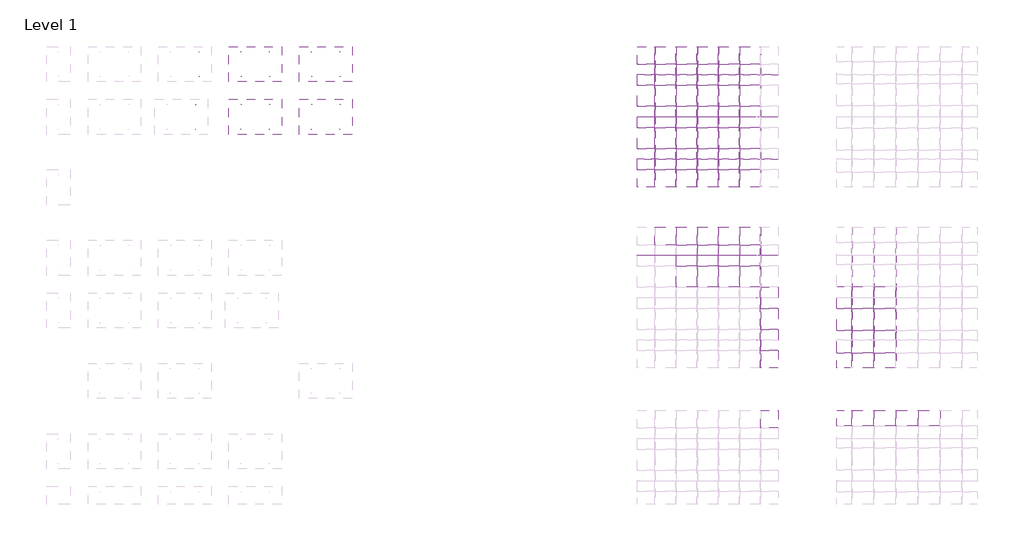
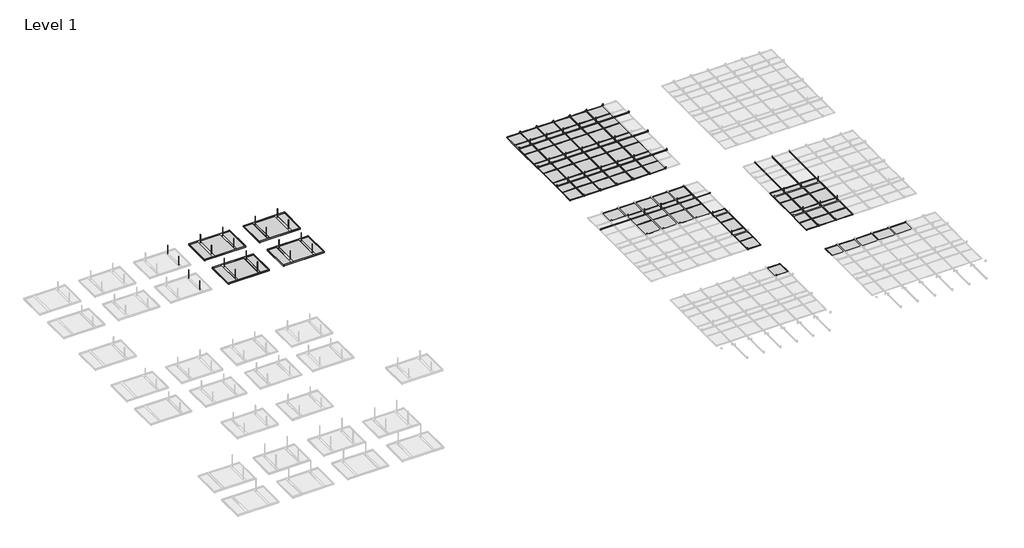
# One storey, part 22 of 32: 141 proxies.
"""IFC4 building model written with IfcOpenShell, lengths in millimetres."""

from ifc_helpers import new_model, si_unit, origin, place, context, project, spatial, transform, mapped, element, save
from components import generic_models_84546a59, generic_models_ee162b96, generic_models_38625c8c, generic_models_cebb11cf, generic_models_39815823, generic_models_aa8f36d8, generic_models_26324e2b, generic_models_eb6e0cd6, generic_models_ee13603d, generic_models_0cb75665, generic_models_6d21b951, generic_models_de900850, generic_models_85b4ffa8

model = new_model("IFC4")

# Units and contexts
model_context = context("Model", 3, world=origin())
ifc_project = project(units=[si_unit("LENGTHUNIT", "METRE", prefix="MILLI")], contexts=[model_context])

# Site, building, storey
site = spatial("IfcSite", under=ifc_project)
building = spatial("IfcBuilding", under=site)
storey = spatial("IfcBuildingStorey", under=building, Name="Level 1", Elevation=0.0)

# Proxies
placement = place(None, origin())
generic_models_shape = generic_models_84546a59(model_context)
element("IfcBuildingElementProxy", 1, Name="durlum_threaded_rod_M6 : durlum_threaded_rod_M6", ObjectType="durlum_threaded_rod_M6 : durlum_threaded_rod_M6", at=placement, inside=storey, context=model_context, shape_type="MappedRepresentation", body=[
    mapped(generic_models_shape, transform((-17784.1736977, 26058.7392516, 3835.0), x_axis=(1.0, 0.0, 0.0), y_axis=(0.0, 1.0, 0.0), z_axis=(0.0, 0.0, 1.0))),
])
element("IfcBuildingElementProxy", 2, Name="durlum_threaded_rod_M6 : durlum_threaded_rod_M6", ObjectType="durlum_threaded_rod_M6 : durlum_threaded_rod_M6", at=placement, inside=storey, context=model_context, shape_type="MappedRepresentation", body=[
    mapped(generic_models_shape, transform((-17784.1736977, 23658.7392516, 3835.0), x_axis=(1.0, 0.0, 0.0), y_axis=(0.0, 1.0, 0.0), z_axis=(0.0, 0.0, 1.0))),
])
element("IfcBuildingElementProxy", 3, Name="durlum_threaded_rod_M6 : durlum_threaded_rod_M6", ObjectType="durlum_threaded_rod_M6 : durlum_threaded_rod_M6", at=placement, inside=storey, context=model_context, shape_type="MappedRepresentation", body=[
    mapped(generic_models_shape, transform((-18984.1736977, 23658.7392516, 3835.0), x_axis=(1.0, 0.0, 0.0), y_axis=(0.0, 1.0, 0.0), z_axis=(0.0, 0.0, 1.0))),
])
element("IfcBuildingElementProxy", 4, Name="durlum_threaded_rod_M6 : durlum_threaded_rod_M6", ObjectType="durlum_threaded_rod_M6 : durlum_threaded_rod_M6", at=placement, inside=storey, context=model_context, shape_type="MappedRepresentation", body=[
    mapped(generic_models_shape, transform((-16584.1736977, 23658.7392516, 3835.0), x_axis=(1.0, 0.0, 0.0), y_axis=(0.0, 1.0, 0.0), z_axis=(0.0, 0.0, 1.0))),
])
element("IfcBuildingElementProxy", 5, Name="durlum_threaded_rod_M6 : durlum_threaded_rod_M6", ObjectType="durlum_threaded_rod_M6 : durlum_threaded_rod_M6", at=placement, inside=storey, context=model_context, shape_type="MappedRepresentation", body=[
    mapped(generic_models_shape, transform((-17184.1736977, 23658.7392516, 3835.0), x_axis=(1.0, 0.0, 0.0), y_axis=(0.0, 1.0, 0.0), z_axis=(0.0, 0.0, 1.0))),
])
element("IfcBuildingElementProxy", 6, Name="durlum_threaded_rod_M6 : durlum_threaded_rod_M6", ObjectType="durlum_threaded_rod_M6 : durlum_threaded_rod_M6", at=placement, inside=storey, context=model_context, shape_type="MappedRepresentation", body=[
    mapped(generic_models_shape, transform((-18984.1736977, 26058.7392516, 3835.0), x_axis=(1.0, 0.0, 0.0), y_axis=(0.0, 1.0, 0.0), z_axis=(0.0, 0.0, 1.0))),
])
element("IfcBuildingElementProxy", 7, Name="durlum_threaded_rod_M6 : durlum_threaded_rod_M6", ObjectType="durlum_threaded_rod_M6 : durlum_threaded_rod_M6", at=placement, inside=storey, context=model_context, shape_type="MappedRepresentation", body=[
    mapped(generic_models_shape, transform((-16584.1736977, 26058.7392516, 3835.0), x_axis=(1.0, 0.0, 0.0), y_axis=(0.0, 1.0, 0.0), z_axis=(0.0, 0.0, 1.0))),
])
element("IfcBuildingElementProxy", 8, Name="durlum_threaded_rod_M6 : durlum_threaded_rod_M6", ObjectType="durlum_threaded_rod_M6 : durlum_threaded_rod_M6", at=placement, inside=storey, context=model_context, shape_type="MappedRepresentation", body=[
    mapped(generic_models_shape, transform((-17184.1736977, 26058.7392516, 3835.0), x_axis=(1.0, 0.0, 0.0), y_axis=(0.0, 1.0, 0.0), z_axis=(0.0, 0.0, 1.0))),
])
element("IfcBuildingElementProxy", 9, Name="durlum_threaded_rod_M6 : durlum_threaded_rod_M6", ObjectType="durlum_threaded_rod_M6 : durlum_threaded_rod_M6", at=placement, inside=storey, context=model_context, shape_type="MappedRepresentation", body=[
    mapped(generic_models_shape, transform((-18384.1736977, 26058.7392516, 3835.0), x_axis=(1.0, 0.0, 0.0), y_axis=(0.0, 1.0, 0.0), z_axis=(0.0, 0.0, 1.0))),
])
element("IfcBuildingElementProxy", 10, Name="durlum_threaded_rod_M6 : durlum_threaded_rod_M6", ObjectType="durlum_threaded_rod_M6 : durlum_threaded_rod_M6", at=placement, inside=storey, context=model_context, shape_type="MappedRepresentation", body=[
    mapped(generic_models_shape, transform((-18384.1736977, 23658.7392516, 3835.0), x_axis=(1.0, 0.0, 0.0), y_axis=(0.0, 1.0, 0.0), z_axis=(0.0, 0.0, 1.0))),
])
element("IfcBuildingElementProxy", 11, Name="durlum_threaded_rod_M6 : durlum_threaded_rod_M6", ObjectType="durlum_threaded_rod_M6 : durlum_threaded_rod_M6", at=placement, inside=storey, context=model_context, shape_type="MappedRepresentation", body=[
    mapped(generic_models_shape, transform((-18384.1736977, 24858.7392516, 3835.0), x_axis=(1.0, 0.0, 0.0), y_axis=(0.0, 1.0, 0.0), z_axis=(0.0, 0.0, 1.0))),
])
element("IfcBuildingElementProxy", 12, Name="durlum_threaded_rod_M6 : durlum_threaded_rod_M6", ObjectType="durlum_threaded_rod_M6 : durlum_threaded_rod_M6", at=placement, inside=storey, context=model_context, shape_type="MappedRepresentation", body=[
    mapped(generic_models_shape, transform((-17784.1736977, 24858.7392516, 3835.0), x_axis=(1.0, 0.0, 0.0), y_axis=(0.0, 1.0, 0.0), z_axis=(0.0, 0.0, 1.0))),
])
element("IfcBuildingElementProxy", 13, Name="durlum_threaded_rod_M6 : durlum_threaded_rod_M6", ObjectType="durlum_threaded_rod_M6 : durlum_threaded_rod_M6", at=placement, inside=storey, context=model_context, shape_type="MappedRepresentation", body=[
    mapped(generic_models_shape, transform((-18984.1736977, 24858.7392516, 3835.0), x_axis=(1.0, 0.0, 0.0), y_axis=(0.0, 1.0, 0.0), z_axis=(0.0, 0.0, 1.0))),
])
element("IfcBuildingElementProxy", 14, Name="durlum_threaded_rod_M6 : durlum_threaded_rod_M6", ObjectType="durlum_threaded_rod_M6 : durlum_threaded_rod_M6", at=placement, inside=storey, context=model_context, shape_type="MappedRepresentation", body=[
    mapped(generic_models_shape, transform((-16584.1736977, 24858.7392516, 3835.0), x_axis=(1.0, 0.0, 0.0), y_axis=(0.0, 1.0, 0.0), z_axis=(0.0, 0.0, 1.0))),
])
element("IfcBuildingElementProxy", 15, Name="durlum_threaded_rod_M6 : durlum_threaded_rod_M6", ObjectType="durlum_threaded_rod_M6 : durlum_threaded_rod_M6", at=placement, inside=storey, context=model_context, shape_type="MappedRepresentation", body=[
    mapped(generic_models_shape, transform((-17184.1736977, 24858.7392516, 3835.0), x_axis=(1.0, 0.0, 0.0), y_axis=(0.0, 1.0, 0.0), z_axis=(0.0, 0.0, 1.0))),
])
element("IfcBuildingElementProxy", 16, Name="durlum_threaded_rod_M6 : durlum_threaded_rod_M6", ObjectType="durlum_threaded_rod_M6 : durlum_threaded_rod_M6", at=placement, inside=storey, context=model_context, shape_type="MappedRepresentation", body=[
    mapped(generic_models_shape, transform((-13392.5747393, 18522.4548964, 3835.0), x_axis=(1.0, 0.0, 0.0), y_axis=(0.0, 1.0, 0.0), z_axis=(0.0, 0.0, 1.0))),
])
element("IfcBuildingElementProxy", 17, Name="durlum_threaded_rod_M6 : durlum_threaded_rod_M6", ObjectType="durlum_threaded_rod_M6 : durlum_threaded_rod_M6", at=placement, inside=storey, context=model_context, shape_type="MappedRepresentation", body=[
    mapped(generic_models_shape, transform((-12142.5747393, 18522.4548964, 3835.0), x_axis=(1.0, 0.0, 0.0), y_axis=(0.0, 1.0, 0.0), z_axis=(0.0, 0.0, 1.0))),
])
element("IfcBuildingElementProxy", 18, Name="durlum_threaded_rod_M6 : durlum_threaded_rod_M6", ObjectType="durlum_threaded_rod_M6 : durlum_threaded_rod_M6", at=placement, inside=storey, context=model_context, shape_type="MappedRepresentation", body=[
    mapped(generic_models_shape, transform((-12767.5747393, 18522.4548964, 3835.0), x_axis=(1.0, 0.0, 0.0), y_axis=(0.0, 1.0, 0.0), z_axis=(0.0, 0.0, 1.0))),
])
element("IfcBuildingElementProxy", 19, Name="durlum_threaded_rod_M6 : durlum_threaded_rod_M6", ObjectType="durlum_threaded_rod_M6 : durlum_threaded_rod_M6", at=placement, inside=storey, context=model_context, shape_type="MappedRepresentation", body=[
    mapped(generic_models_shape, transform((-17784.1736977, 20922.4548964, 3835.0), x_axis=(1.0, 0.0, 0.0), y_axis=(0.0, 1.0, 0.0), z_axis=(0.0, 0.0, 1.0))),
])
element("IfcBuildingElementProxy", 20, Name="durlum_threaded_rod_M6 : durlum_threaded_rod_M6", ObjectType="durlum_threaded_rod_M6 : durlum_threaded_rod_M6", at=placement, inside=storey, context=model_context, shape_type="MappedRepresentation", body=[
    mapped(generic_models_shape, transform((-15984.1736977, 18522.4548964, 3835.0), x_axis=(1.0, 0.0, 0.0), y_axis=(0.0, 1.0, 0.0), z_axis=(0.0, 0.0, 1.0))),
])
element("IfcBuildingElementProxy", 21, Name="durlum_threaded_rod_M6 : durlum_threaded_rod_M6", ObjectType="durlum_threaded_rod_M6 : durlum_threaded_rod_M6", at=placement, inside=storey, context=model_context, shape_type="MappedRepresentation", body=[
    mapped(generic_models_shape, transform((-16584.1736977, 20922.4548964, 3835.0), x_axis=(1.0, 0.0, 0.0), y_axis=(0.0, 1.0, 0.0), z_axis=(0.0, 0.0, 1.0))),
])
element("IfcBuildingElementProxy", 22, Name="durlum_threaded_rod_M6 : durlum_threaded_rod_M6", ObjectType="durlum_threaded_rod_M6 : durlum_threaded_rod_M6", at=placement, inside=storey, context=model_context, shape_type="MappedRepresentation", body=[
    mapped(generic_models_shape, transform((-17184.1736977, 20922.4548964, 3835.0), x_axis=(1.0, 0.0, 0.0), y_axis=(0.0, 1.0, 0.0), z_axis=(0.0, 0.0, 1.0))),
])
element("IfcBuildingElementProxy", 23, Name="durlum_threaded_rod_M6 : durlum_threaded_rod_M6", ObjectType="durlum_threaded_rod_M6 : durlum_threaded_rod_M6", at=placement, inside=storey, context=model_context, shape_type="MappedRepresentation", body=[
    mapped(generic_models_shape, transform((-15984.1736977, 19722.4548964, 3835.0), x_axis=(1.0, 0.0, 0.0), y_axis=(0.0, 1.0, 0.0), z_axis=(0.0, 0.0, 1.0))),
])
element("IfcBuildingElementProxy", 24, Name="durlum_threaded_rod_M6 : durlum_threaded_rod_M6", ObjectType="durlum_threaded_rod_M6 : durlum_threaded_rod_M6", at=placement, inside=storey, context=model_context, shape_type="MappedRepresentation", body=[
    mapped(generic_models_shape, transform((-12142.5747393, 19722.4548964, 3835.0), x_axis=(1.0, 0.0, 0.0), y_axis=(0.0, 1.0, 0.0), z_axis=(0.0, 0.0, 1.0))),
])
element("IfcBuildingElementProxy", 25, Name="durlum_threaded_rod_M6 : durlum_threaded_rod_M6", ObjectType="durlum_threaded_rod_M6 : durlum_threaded_rod_M6", at=placement, inside=storey, context=model_context, shape_type="MappedRepresentation", body=[
    mapped(generic_models_shape, transform((-12767.5747393, 19722.4548964, 3835.0), x_axis=(1.0, 0.0, 0.0), y_axis=(0.0, 1.0, 0.0), z_axis=(0.0, 0.0, 1.0))),
])
element("IfcBuildingElementProxy", 26, Name="durlum_threaded_rod_M6 : durlum_threaded_rod_M6", ObjectType="durlum_threaded_rod_M6 : durlum_threaded_rod_M6", at=placement, inside=storey, context=model_context, shape_type="MappedRepresentation", body=[
    mapped(generic_models_shape, transform((-13392.5747393, 19722.4548964, 3835.0), x_axis=(1.0, 0.0, 0.0), y_axis=(0.0, 1.0, 0.0), z_axis=(0.0, 0.0, 1.0))),
])
generic_models_2_shape = generic_models_ee162b96(model_context)
element("IfcBuildingElementProxy", 27, Name="durlum_threaded_rod_M6 : durlum_threaded_rod_M6", ObjectType="durlum_threaded_rod_M6 : durlum_threaded_rod_M6", at=placement, inside=storey, context=model_context, shape_type="MappedRepresentation", body=[
    mapped(generic_models_2_shape, transform((-31821.531136, 26008.7392516, 3672.1013669), x_axis=(0.0, -1.0, 0.0), y_axis=(1.0, 0.0, 0.0), z_axis=(0.0, 0.0, 1.0))),
])
element("IfcBuildingElementProxy", 28, Name="durlum_threaded_rod_M6 : durlum_threaded_rod_M6", ObjectType="durlum_threaded_rod_M6 : durlum_threaded_rod_M6", at=placement, inside=storey, context=model_context, shape_type="MappedRepresentation", body=[
    mapped(generic_models_2_shape, transform((-31821.531136, 26708.7392516, 3672.1013669), x_axis=(0.0, -1.0, 0.0), y_axis=(1.0, 0.0, 0.0), z_axis=(0.0, 0.0, 1.0))),
])
element("IfcBuildingElementProxy", 29, Name="durlum_threaded_rod_M6 : durlum_threaded_rod_M6", ObjectType="durlum_threaded_rod_M6 : durlum_threaded_rod_M6", at=placement, inside=storey, context=model_context, shape_type="MappedRepresentation", body=[
    mapped(generic_models_2_shape, transform((-29821.531136, 26008.7392516, 3672.1013669), x_axis=(0.0, -1.0, 0.0), y_axis=(1.0, 0.0, 0.0), z_axis=(0.0, 0.0, 1.0))),
])
element("IfcBuildingElementProxy", 30, Name="durlum_threaded_rod_M6 : durlum_threaded_rod_M6", ObjectType="durlum_threaded_rod_M6 : durlum_threaded_rod_M6", at=placement, inside=storey, context=model_context, shape_type="MappedRepresentation", body=[
    mapped(generic_models_2_shape, transform((-29821.531136, 26708.7392516, 3672.1013669), x_axis=(0.0, -1.0, 0.0), y_axis=(1.0, 0.0, 0.0), z_axis=(0.0, 0.0, 1.0))),
])
element("IfcBuildingElementProxy", 31, Name="durlum_threaded_rod_M6 : durlum_threaded_rod_M6", ObjectType="durlum_threaded_rod_M6 : durlum_threaded_rod_M6", at=placement, inside=storey, context=model_context, shape_type="MappedRepresentation", body=[
    mapped(generic_models_2_shape, transform((-30631.531136, 26008.7392516, 3672.1013669), x_axis=(0.0, -1.0, 0.0), y_axis=(1.0, 0.0, 0.0), z_axis=(0.0, 0.0, 1.0))),
])
element("IfcBuildingElementProxy", 32, Name="durlum_threaded_rod_M6 : durlum_threaded_rod_M6", ObjectType="durlum_threaded_rod_M6 : durlum_threaded_rod_M6", at=placement, inside=storey, context=model_context, shape_type="MappedRepresentation", body=[
    mapped(generic_models_2_shape, transform((-30631.531136, 26708.7392516, 3672.1013669), x_axis=(0.0, -1.0, 0.0), y_axis=(1.0, 0.0, 0.0), z_axis=(0.0, 0.0, 1.0))),
])
element("IfcBuildingElementProxy", 33, Name="durlum_threaded_rod_M6 : durlum_threaded_rod_M6", ObjectType="durlum_threaded_rod_M6 : durlum_threaded_rod_M6", at=placement, inside=storey, context=model_context, shape_type="MappedRepresentation", body=[
    mapped(generic_models_2_shape, transform((-27821.531136, 26008.7392516, 3672.1013669), x_axis=(0.0, -1.0, 0.0), y_axis=(1.0, 0.0, 0.0), z_axis=(0.0, 0.0, 1.0))),
])
element("IfcBuildingElementProxy", 34, Name="durlum_threaded_rod_M6 : durlum_threaded_rod_M6", ObjectType="durlum_threaded_rod_M6 : durlum_threaded_rod_M6", at=placement, inside=storey, context=model_context, shape_type="MappedRepresentation", body=[
    mapped(generic_models_2_shape, transform((-27821.531136, 26708.7392516, 3672.1013669), x_axis=(0.0, -1.0, 0.0), y_axis=(1.0, 0.0, 0.0), z_axis=(0.0, 0.0, 1.0))),
])
element("IfcBuildingElementProxy", 35, Name="durlum_threaded_rod_M6 : durlum_threaded_rod_M6", ObjectType="durlum_threaded_rod_M6 : durlum_threaded_rod_M6", at=placement, inside=storey, context=model_context, shape_type="MappedRepresentation", body=[
    mapped(generic_models_2_shape, transform((-28631.531136, 26008.7392516, 3672.1013669), x_axis=(0.0, -1.0, 0.0), y_axis=(1.0, 0.0, 0.0), z_axis=(0.0, 0.0, 1.0))),
])
element("IfcBuildingElementProxy", 36, Name="durlum_threaded_rod_M6 : durlum_threaded_rod_M6", ObjectType="durlum_threaded_rod_M6 : durlum_threaded_rod_M6", at=placement, inside=storey, context=model_context, shape_type="MappedRepresentation", body=[
    mapped(generic_models_2_shape, transform((-28631.531136, 26708.7392516, 3672.1013669), x_axis=(0.0, -1.0, 0.0), y_axis=(1.0, 0.0, 0.0), z_axis=(0.0, 0.0, 1.0))),
])
element("IfcBuildingElementProxy", 37, Name="durlum_threaded_rod_M6 : durlum_threaded_rod_M6", ObjectType="durlum_threaded_rod_M6 : durlum_threaded_rod_M6", at=placement, inside=storey, context=model_context, shape_type="MappedRepresentation", body=[
    mapped(generic_models_2_shape, transform((-29821.531136, 24508.7392516, 3672.1013669), x_axis=(0.0, -1.0, 0.0), y_axis=(1.0, 0.0, 0.0), z_axis=(0.0, 0.0, 1.0))),
])
element("IfcBuildingElementProxy", 38, Name="durlum_threaded_rod_M6 : durlum_threaded_rod_M6", ObjectType="durlum_threaded_rod_M6 : durlum_threaded_rod_M6", at=placement, inside=storey, context=model_context, shape_type="MappedRepresentation", body=[
    mapped(generic_models_2_shape, transform((-29821.531136, 25208.7392516, 3672.1013669), x_axis=(0.0, -1.0, 0.0), y_axis=(1.0, 0.0, 0.0), z_axis=(0.0, 0.0, 1.0))),
])
element("IfcBuildingElementProxy", 39, Name="durlum_threaded_rod_M6 : durlum_threaded_rod_M6", ObjectType="durlum_threaded_rod_M6 : durlum_threaded_rod_M6", at=placement, inside=storey, context=model_context, shape_type="MappedRepresentation", body=[
    mapped(generic_models_2_shape, transform((-30631.531136, 24508.7392516, 3672.1013669), x_axis=(0.0, -1.0, 0.0), y_axis=(1.0, 0.0, 0.0), z_axis=(0.0, 0.0, 1.0))),
])
element("IfcBuildingElementProxy", 40, Name="durlum_threaded_rod_M6 : durlum_threaded_rod_M6", ObjectType="durlum_threaded_rod_M6 : durlum_threaded_rod_M6", at=placement, inside=storey, context=model_context, shape_type="MappedRepresentation", body=[
    mapped(generic_models_2_shape, transform((-30631.531136, 25208.7392516, 3672.1013669), x_axis=(0.0, -1.0, 0.0), y_axis=(1.0, 0.0, 0.0), z_axis=(0.0, 0.0, 1.0))),
])
element("IfcBuildingElementProxy", 41, Name="durlum_threaded_rod_M6 : durlum_threaded_rod_M6", ObjectType="durlum_threaded_rod_M6 : durlum_threaded_rod_M6", at=placement, inside=storey, context=model_context, shape_type="MappedRepresentation", body=[
    mapped(generic_models_2_shape, transform((-27821.531136, 24508.7392516, 3672.1013669), x_axis=(0.0, -1.0, 0.0), y_axis=(1.0, 0.0, 0.0), z_axis=(0.0, 0.0, 1.0))),
])
element("IfcBuildingElementProxy", 42, Name="durlum_threaded_rod_M6 : durlum_threaded_rod_M6", ObjectType="durlum_threaded_rod_M6 : durlum_threaded_rod_M6", at=placement, inside=storey, context=model_context, shape_type="MappedRepresentation", body=[
    mapped(generic_models_2_shape, transform((-27821.531136, 25208.7392516, 3672.1013669), x_axis=(0.0, -1.0, 0.0), y_axis=(1.0, 0.0, 0.0), z_axis=(0.0, 0.0, 1.0))),
])
element("IfcBuildingElementProxy", 43, Name="durlum_threaded_rod_M6 : durlum_threaded_rod_M6", ObjectType="durlum_threaded_rod_M6 : durlum_threaded_rod_M6", at=placement, inside=storey, context=model_context, shape_type="MappedRepresentation", body=[
    mapped(generic_models_2_shape, transform((-28631.531136, 24508.7392516, 3672.1013669), x_axis=(0.0, -1.0, 0.0), y_axis=(1.0, 0.0, 0.0), z_axis=(0.0, 0.0, 1.0))),
])
element("IfcBuildingElementProxy", 44, Name="durlum_threaded_rod_M6 : durlum_threaded_rod_M6", ObjectType="durlum_threaded_rod_M6 : durlum_threaded_rod_M6", at=placement, inside=storey, context=model_context, shape_type="MappedRepresentation", body=[
    mapped(generic_models_2_shape, transform((-28631.531136, 25208.7392516, 3672.1013669), x_axis=(0.0, -1.0, 0.0), y_axis=(1.0, 0.0, 0.0), z_axis=(0.0, 0.0, 1.0))),
])
element("IfcBuildingElementProxy", 45, Name="durlum_threaded_rod_M6 : durlum_threaded_rod_M6", ObjectType="durlum_threaded_rod_M6 : durlum_threaded_rod_M6", at=placement, inside=storey, context=model_context, shape_type="MappedRepresentation", body=[
    mapped(generic_models_2_shape, transform((-31921.531136, 24508.7392516, 3672.1013669), x_axis=(0.0, -1.0, 0.0), y_axis=(1.0, 0.0, 0.0), z_axis=(0.0, 0.0, 1.0))),
])
element("IfcBuildingElementProxy", 46, Name="durlum_threaded_rod_M6 : durlum_threaded_rod_M6", ObjectType="durlum_threaded_rod_M6 : durlum_threaded_rod_M6", at=placement, inside=storey, context=model_context, shape_type="MappedRepresentation", body=[
    mapped(generic_models_2_shape, transform((-31921.531136, 25208.7392516, 3672.1013669), x_axis=(0.0, -1.0, 0.0), y_axis=(1.0, 0.0, 0.0), z_axis=(0.0, 0.0, 1.0))),
])
generic_models_3_shape = generic_models_38625c8c(model_context)
element("IfcBuildingElementProxy", 47, Name="durlum_U1000 : durlum_U1000", ObjectType="durlum_U1000 : durlum_U1000", at=placement, inside=storey, context=model_context, shape_type="MappedRepresentation", body=[
    mapped(generic_models_3_shape, transform((-17684.1736977, 24858.7392516, 3712.8202962), x_axis=(0.0, 1.0, 0.0), y_axis=(-1.0, 0.0, 0.0), z_axis=(0.0, 0.0, 1.0))),
])
element("IfcBuildingElementProxy", 48, Name="durlum_U1000 : durlum_U1000", ObjectType="durlum_U1000 : durlum_U1000", at=placement, inside=storey, context=model_context, shape_type="MappedRepresentation", body=[
    mapped(generic_models_3_shape, transform((-17384.1736977, 23658.7392516, 3754.5054063), x_axis=(1.0, 0.0, 0.0), y_axis=(0.0, 1.0, 0.0), z_axis=(0.0, 0.0, 1.0))),
])
element("IfcBuildingElementProxy", 49, Name="durlum_U1000 : durlum_U1000", ObjectType="durlum_U1000 : durlum_U1000", at=placement, inside=storey, context=model_context, shape_type="MappedRepresentation", body=[
    mapped(generic_models_3_shape, transform((-17384.1736977, 26058.7392516, 3754.5054063), x_axis=(1.0, 0.0, 0.0), y_axis=(0.0, 1.0, 0.0), z_axis=(0.0, 0.0, 1.0))),
])
element("IfcBuildingElementProxy", 50, Name="durlum_U1000 : durlum_U1000", ObjectType="durlum_U1000 : durlum_U1000", at=placement, inside=storey, context=model_context, shape_type="MappedRepresentation", body=[
    mapped(generic_models_3_shape, transform((-17084.1736977, 24858.7392516, 3712.8202962), x_axis=(0.0, 1.0, 0.0), y_axis=(-1.0, 0.0, 0.0), z_axis=(0.0, 0.0, 1.0))),
])
element("IfcBuildingElementProxy", 51, Name="durlum_U1000 : durlum_U1000", ObjectType="durlum_U1000 : durlum_U1000", at=placement, inside=storey, context=model_context, shape_type="MappedRepresentation", body=[
    mapped(generic_models_3_shape, transform((-16484.1736977, 24858.7392516, 3712.8202962), x_axis=(0.0, 1.0, 0.0), y_axis=(-1.0, 0.0, 0.0), z_axis=(0.0, 0.0, 1.0))),
])
element("IfcBuildingElementProxy", 52, Name="durlum_U1000 : durlum_U1000", ObjectType="durlum_U1000 : durlum_U1000", at=placement, inside=storey, context=model_context, shape_type="MappedRepresentation", body=[
    mapped(generic_models_3_shape, transform((-18884.1736977, 24858.7392516, 3712.8202962), x_axis=(0.0, 1.0, 0.0), y_axis=(-1.0, 0.0, 0.0), z_axis=(0.0, 0.0, 1.0))),
])
element("IfcBuildingElementProxy", 53, Name="durlum_U1000 : durlum_U1000", ObjectType="durlum_U1000 : durlum_U1000", at=placement, inside=storey, context=model_context, shape_type="MappedRepresentation", body=[
    mapped(generic_models_3_shape, transform((-17384.1736977, 24858.7392516, 3754.5054063), x_axis=(1.0, 0.0, 0.0), y_axis=(0.0, 1.0, 0.0), z_axis=(0.0, 0.0, 1.0))),
])
element("IfcBuildingElementProxy", 54, Name="durlum_U1000 : durlum_U1000", ObjectType="durlum_U1000 : durlum_U1000", at=placement, inside=storey, context=model_context, shape_type="MappedRepresentation", body=[
    mapped(generic_models_3_shape, transform((-18284.1736977, 24858.7392516, 3712.8202962), x_axis=(0.0, 1.0, 0.0), y_axis=(-1.0, 0.0, 0.0), z_axis=(0.0, 0.0, 1.0))),
])
element("IfcBuildingElementProxy", 55, Name="durlum_U1000 : durlum_U1000", ObjectType="durlum_U1000 : durlum_U1000", at=placement, inside=storey, context=model_context, shape_type="MappedRepresentation", body=[
    mapped(generic_models_3_shape, transform((-12042.5747393, 19722.4548964, 3712.8202962), x_axis=(0.0, 1.0, 0.0), y_axis=(-1.0, 0.0, 0.0), z_axis=(0.0, 0.0, 1.0))),
])
element("IfcBuildingElementProxy", 56, Name="durlum_U1000 : durlum_U1000", ObjectType="durlum_U1000 : durlum_U1000", at=placement, inside=storey, context=model_context, shape_type="MappedRepresentation", body=[
    mapped(generic_models_3_shape, transform((-13292.5747393, 19722.4548964, 3712.8202962), x_axis=(0.0, 1.0, 0.0), y_axis=(-1.0, 0.0, 0.0), z_axis=(0.0, 0.0, 1.0))),
])
element("IfcBuildingElementProxy", 57, Name="durlum_U1000 : durlum_U1000", ObjectType="durlum_U1000 : durlum_U1000", at=placement, inside=storey, context=model_context, shape_type="MappedRepresentation", body=[
    mapped(generic_models_3_shape, transform((-12667.5747393, 19722.4548964, 3712.8202962), x_axis=(0.0, 1.0, 0.0), y_axis=(-1.0, 0.0, 0.0), z_axis=(0.0, 0.0, 1.0))),
])
element("IfcBuildingElementProxy", 58, Name="durlum_U1000 : durlum_U1000", ObjectType="durlum_U1000 : durlum_U1000", at=placement, inside=storey, context=model_context, shape_type="MappedRepresentation", body=[
    mapped(generic_models_3_shape, transform((-17384.1736977, 20922.4548964, 3754.5054063), x_axis=(1.0, 0.0, 0.0), y_axis=(0.0, 1.0, 0.0), z_axis=(0.0, 0.0, 1.0))),
])
element("IfcBuildingElementProxy", 59, Name="durlum_U1000 : durlum_U1000", ObjectType="durlum_U1000 : durlum_U1000", at=placement, inside=storey, context=model_context, shape_type="MappedRepresentation", body=[
    mapped(generic_models_3_shape, transform((-15884.1736977, 19722.4548964, 3712.8202962), x_axis=(0.0, 1.0, 0.0), y_axis=(-1.0, 0.0, 0.0), z_axis=(0.0, 0.0, 1.0))),
])
generic_models_4_shape = generic_models_cebb11cf(model_context)
element("IfcBuildingElementProxy", 60, Name="durlum_S1_panel : durlum_S1_panel", ObjectType="durlum_S1_panel : durlum_S1_panel", at=placement, inside=storey, context=model_context, shape_type="MappedRepresentation", body=[
    mapped(generic_models_4_shape, transform((-17384.1736977, 24858.7392516, 3700.0), x_axis=(1.0, 0.0, 0.0), y_axis=(0.0, 1.0, 0.0), z_axis=(0.0, 0.0, 1.0))),
])
element("IfcBuildingElementProxy", 61, Name="durlum_S1_panel : durlum_S1_panel", ObjectType="durlum_S1_panel : durlum_S1_panel", at=placement, inside=storey, context=model_context, shape_type="MappedRepresentation", body=[
    mapped(generic_models_4_shape, transform((-17984.1736977, 24858.7392516, 3700.0), x_axis=(1.0, 0.0, 0.0), y_axis=(0.0, 1.0, 0.0), z_axis=(0.0, 0.0, 1.0))),
])
element("IfcBuildingElementProxy", 62, Name="durlum_S1_panel : durlum_S1_panel", ObjectType="durlum_S1_panel : durlum_S1_panel", at=placement, inside=storey, context=model_context, shape_type="MappedRepresentation", body=[
    mapped(generic_models_4_shape, transform((-18584.1736977, 24858.7392516, 3700.0), x_axis=(1.0, 0.0, 0.0), y_axis=(0.0, 1.0, 0.0), z_axis=(0.0, 0.0, 1.0))),
])
element("IfcBuildingElementProxy", 63, Name="durlum_S1_panel : durlum_S1_panel", ObjectType="durlum_S1_panel : durlum_S1_panel", at=placement, inside=storey, context=model_context, shape_type="MappedRepresentation", body=[
    mapped(generic_models_4_shape, transform((-16184.1736977, 24858.7392516, 3700.0), x_axis=(1.0, 0.0, 0.0), y_axis=(0.0, 1.0, 0.0), z_axis=(0.0, 0.0, 1.0))),
])
element("IfcBuildingElementProxy", 64, Name="durlum_S1_panel : durlum_S1_panel", ObjectType="durlum_S1_panel : durlum_S1_panel", at=placement, inside=storey, context=model_context, shape_type="MappedRepresentation", body=[
    mapped(generic_models_4_shape, transform((-17384.1736977, 23658.7392516, 3700.0), x_axis=(1.0, 0.0, 0.0), y_axis=(0.0, 1.0, 0.0), z_axis=(0.0, 0.0, 1.0))),
])
element("IfcBuildingElementProxy", 65, Name="durlum_S1_panel : durlum_S1_panel", ObjectType="durlum_S1_panel : durlum_S1_panel", at=placement, inside=storey, context=model_context, shape_type="MappedRepresentation", body=[
    mapped(generic_models_4_shape, transform((-17384.1736977, 26058.7392516, 3700.0), x_axis=(1.0, 0.0, 0.0), y_axis=(0.0, 1.0, 0.0), z_axis=(0.0, 0.0, 1.0))),
])
element("IfcBuildingElementProxy", 66, Name="durlum_S1_panel : durlum_S1_panel", ObjectType="durlum_S1_panel : durlum_S1_panel", at=placement, inside=storey, context=model_context, shape_type="MappedRepresentation", body=[
    mapped(generic_models_4_shape, transform((-17384.1736977, 25458.7392516, 3700.0), x_axis=(1.0, 0.0, 0.0), y_axis=(0.0, 1.0, 0.0), z_axis=(0.0, 0.0, 1.0))),
])
element("IfcBuildingElementProxy", 67, Name="durlum_S1_panel : durlum_S1_panel", ObjectType="durlum_S1_panel : durlum_S1_panel", at=placement, inside=storey, context=model_context, shape_type="MappedRepresentation", body=[
    mapped(generic_models_4_shape, transform((-17984.1736977, 25458.7392516, 3700.0), x_axis=(1.0, 0.0, 0.0), y_axis=(0.0, 1.0, 0.0), z_axis=(0.0, 0.0, 1.0))),
])
element("IfcBuildingElementProxy", 68, Name="durlum_S1_panel : durlum_S1_panel", ObjectType="durlum_S1_panel : durlum_S1_panel", at=placement, inside=storey, context=model_context, shape_type="MappedRepresentation", body=[
    mapped(generic_models_4_shape, transform((-17984.1736977, 23658.7392516, 3700.0), x_axis=(1.0, 0.0, 0.0), y_axis=(0.0, 1.0, 0.0), z_axis=(0.0, 0.0, 1.0))),
])
element("IfcBuildingElementProxy", 69, Name="durlum_S1_panel : durlum_S1_panel", ObjectType="durlum_S1_panel : durlum_S1_panel", at=placement, inside=storey, context=model_context, shape_type="MappedRepresentation", body=[
    mapped(generic_models_4_shape, transform((-17984.1736977, 26058.7392516, 3700.0), x_axis=(1.0, 0.0, 0.0), y_axis=(0.0, 1.0, 0.0), z_axis=(0.0, 0.0, 1.0))),
])
element("IfcBuildingElementProxy", 70, Name="durlum_S1_panel : durlum_S1_panel", ObjectType="durlum_S1_panel : durlum_S1_panel", at=placement, inside=storey, context=model_context, shape_type="MappedRepresentation", body=[
    mapped(generic_models_4_shape, transform((-18584.1736977, 25458.7392516, 3700.0), x_axis=(1.0, 0.0, 0.0), y_axis=(0.0, 1.0, 0.0), z_axis=(0.0, 0.0, 1.0))),
])
element("IfcBuildingElementProxy", 71, Name="durlum_S1_panel : durlum_S1_panel", ObjectType="durlum_S1_panel : durlum_S1_panel", at=placement, inside=storey, context=model_context, shape_type="MappedRepresentation", body=[
    mapped(generic_models_4_shape, transform((-16184.1736977, 25458.7392516, 3700.0), x_axis=(1.0, 0.0, 0.0), y_axis=(0.0, 1.0, 0.0), z_axis=(0.0, 0.0, 1.0))),
])
element("IfcBuildingElementProxy", 72, Name="durlum_S1_panel : durlum_S1_panel", ObjectType="durlum_S1_panel : durlum_S1_panel", at=placement, inside=storey, context=model_context, shape_type="MappedRepresentation", body=[
    mapped(generic_models_4_shape, transform((-18584.1736977, 23658.7392516, 3700.0), x_axis=(1.0, 0.0, 0.0), y_axis=(0.0, 1.0, 0.0), z_axis=(0.0, 0.0, 1.0))),
])
element("IfcBuildingElementProxy", 73, Name="durlum_S1_panel : durlum_S1_panel", ObjectType="durlum_S1_panel : durlum_S1_panel", at=placement, inside=storey, context=model_context, shape_type="MappedRepresentation", body=[
    mapped(generic_models_4_shape, transform((-16184.1736977, 23658.7392516, 3700.0), x_axis=(1.0, 0.0, 0.0), y_axis=(0.0, 1.0, 0.0), z_axis=(0.0, 0.0, 1.0))),
])
element("IfcBuildingElementProxy", 74, Name="durlum_S1_panel : durlum_S1_panel", ObjectType="durlum_S1_panel : durlum_S1_panel", at=placement, inside=storey, context=model_context, shape_type="MappedRepresentation", body=[
    mapped(generic_models_4_shape, transform((-18584.1736977, 26058.7392516, 3700.0), x_axis=(1.0, 0.0, 0.0), y_axis=(0.0, 1.0, 0.0), z_axis=(0.0, 0.0, 1.0))),
])
element("IfcBuildingElementProxy", 75, Name="durlum_S1_panel : durlum_S1_panel", ObjectType="durlum_S1_panel : durlum_S1_panel", at=placement, inside=storey, context=model_context, shape_type="MappedRepresentation", body=[
    mapped(generic_models_4_shape, transform((-16184.1736977, 26058.7392516, 3700.0), x_axis=(1.0, 0.0, 0.0), y_axis=(0.0, 1.0, 0.0), z_axis=(0.0, 0.0, 1.0))),
])
element("IfcBuildingElementProxy", 76, Name="durlum_S1_panel : durlum_S1_panel", ObjectType="durlum_S1_panel : durlum_S1_panel", at=placement, inside=storey, context=model_context, shape_type="MappedRepresentation", body=[
    mapped(generic_models_4_shape, transform((-16784.1736977, 25458.7392516, 3700.0), x_axis=(1.0, 0.0, 0.0), y_axis=(0.0, 1.0, 0.0), z_axis=(0.0, 0.0, 1.0))),
])
element("IfcBuildingElementProxy", 77, Name="durlum_S1_panel : durlum_S1_panel", ObjectType="durlum_S1_panel : durlum_S1_panel", at=placement, inside=storey, context=model_context, shape_type="MappedRepresentation", body=[
    mapped(generic_models_4_shape, transform((-16784.1736977, 23658.7392516, 3700.0), x_axis=(1.0, 0.0, 0.0), y_axis=(0.0, 1.0, 0.0), z_axis=(0.0, 0.0, 1.0))),
])
element("IfcBuildingElementProxy", 78, Name="durlum_S1_panel : durlum_S1_panel", ObjectType="durlum_S1_panel : durlum_S1_panel", at=placement, inside=storey, context=model_context, shape_type="MappedRepresentation", body=[
    mapped(generic_models_4_shape, transform((-16784.1736977, 26058.7392516, 3700.0), x_axis=(1.0, 0.0, 0.0), y_axis=(0.0, 1.0, 0.0), z_axis=(0.0, 0.0, 1.0))),
])
element("IfcBuildingElementProxy", 79, Name="durlum_S1_panel : durlum_S1_panel", ObjectType="durlum_S1_panel : durlum_S1_panel", at=placement, inside=storey, context=model_context, shape_type="MappedRepresentation", body=[
    mapped(generic_models_4_shape, transform((-16784.1736977, 24858.7392516, 3700.0), x_axis=(1.0, 0.0, 0.0), y_axis=(0.0, 1.0, 0.0), z_axis=(0.0, 0.0, 1.0))),
])
element("IfcBuildingElementProxy", 80, Name="durlum_S1_panel : durlum_S1_panel", ObjectType="durlum_S1_panel : durlum_S1_panel", at=placement, inside=storey, context=model_context, shape_type="MappedRepresentation", body=[
    mapped(generic_models_4_shape, transform((-16784.1736977, 24258.7392516, 3700.0), x_axis=(1.0, 0.0, 0.0), y_axis=(0.0, 1.0, 0.0), z_axis=(0.0, 0.0, 1.0))),
])
element("IfcBuildingElementProxy", 81, Name="durlum_S1_panel : durlum_S1_panel", ObjectType="durlum_S1_panel : durlum_S1_panel", at=placement, inside=storey, context=model_context, shape_type="MappedRepresentation", body=[
    mapped(generic_models_4_shape, transform((-17384.1736977, 24258.7392516, 3700.0), x_axis=(1.0, 0.0, 0.0), y_axis=(0.0, 1.0, 0.0), z_axis=(0.0, 0.0, 1.0))),
])
element("IfcBuildingElementProxy", 82, Name="durlum_S1_panel : durlum_S1_panel", ObjectType="durlum_S1_panel : durlum_S1_panel", at=placement, inside=storey, context=model_context, shape_type="MappedRepresentation", body=[
    mapped(generic_models_4_shape, transform((-17984.1736977, 24258.7392516, 3700.0), x_axis=(1.0, 0.0, 0.0), y_axis=(0.0, 1.0, 0.0), z_axis=(0.0, 0.0, 1.0))),
])
element("IfcBuildingElementProxy", 83, Name="durlum_S1_panel : durlum_S1_panel", ObjectType="durlum_S1_panel : durlum_S1_panel", at=placement, inside=storey, context=model_context, shape_type="MappedRepresentation", body=[
    mapped(generic_models_4_shape, transform((-18584.1736977, 24258.7392516, 3700.0), x_axis=(1.0, 0.0, 0.0), y_axis=(0.0, 1.0, 0.0), z_axis=(0.0, 0.0, 1.0))),
])
element("IfcBuildingElementProxy", 84, Name="durlum_S1_panel : durlum_S1_panel", ObjectType="durlum_S1_panel : durlum_S1_panel", at=placement, inside=storey, context=model_context, shape_type="MappedRepresentation", body=[
    mapped(generic_models_4_shape, transform((-16184.1736977, 24258.7392516, 3700.0), x_axis=(1.0, 0.0, 0.0), y_axis=(0.0, 1.0, 0.0), z_axis=(0.0, 0.0, 1.0))),
])
element("IfcBuildingElementProxy", 85, Name="durlum_S1_panel : durlum_S1_panel", ObjectType="durlum_S1_panel : durlum_S1_panel", at=placement, inside=storey, context=model_context, shape_type="MappedRepresentation", body=[
    mapped(generic_models_4_shape, transform((-17384.1736977, 20922.4548964, 3700.0), x_axis=(1.0, 0.0, 0.0), y_axis=(0.0, 1.0, 0.0), z_axis=(0.0, 0.0, 1.0))),
])
element("IfcBuildingElementProxy", 86, Name="durlum_S1_panel : durlum_S1_panel", ObjectType="durlum_S1_panel : durlum_S1_panel", at=placement, inside=storey, context=model_context, shape_type="MappedRepresentation", body=[
    mapped(generic_models_4_shape, transform((-17384.1736977, 20322.4548964, 3700.0), x_axis=(1.0, 0.0, 0.0), y_axis=(0.0, 1.0, 0.0), z_axis=(0.0, 0.0, 1.0))),
])
element("IfcBuildingElementProxy", 87, Name="durlum_S1_panel : durlum_S1_panel", ObjectType="durlum_S1_panel : durlum_S1_panel", at=placement, inside=storey, context=model_context, shape_type="MappedRepresentation", body=[
    mapped(generic_models_4_shape, transform((-17984.1736977, 20322.4548964, 3700.0), x_axis=(1.0, 0.0, 0.0), y_axis=(0.0, 1.0, 0.0), z_axis=(0.0, 0.0, 1.0))),
])
element("IfcBuildingElementProxy", 88, Name="durlum_S1_panel : durlum_S1_panel", ObjectType="durlum_S1_panel : durlum_S1_panel", at=placement, inside=storey, context=model_context, shape_type="MappedRepresentation", body=[
    mapped(generic_models_4_shape, transform((-17984.1736977, 20922.4548964, 3700.0), x_axis=(1.0, 0.0, 0.0), y_axis=(0.0, 1.0, 0.0), z_axis=(0.0, 0.0, 1.0))),
])
element("IfcBuildingElementProxy", 89, Name="durlum_S1_panel : durlum_S1_panel", ObjectType="durlum_S1_panel : durlum_S1_panel", at=placement, inside=storey, context=model_context, shape_type="MappedRepresentation", body=[
    mapped(generic_models_4_shape, transform((-16184.1736977, 20322.4548964, 3700.0), x_axis=(1.0, 0.0, 0.0), y_axis=(0.0, 1.0, 0.0), z_axis=(0.0, 0.0, 1.0))),
])
element("IfcBuildingElementProxy", 90, Name="durlum_S1_panel : durlum_S1_panel", ObjectType="durlum_S1_panel : durlum_S1_panel", at=placement, inside=storey, context=model_context, shape_type="MappedRepresentation", body=[
    mapped(generic_models_4_shape, transform((-16184.1736977, 20922.4548964, 3700.0), x_axis=(1.0, 0.0, 0.0), y_axis=(0.0, 1.0, 0.0), z_axis=(0.0, 0.0, 1.0))),
])
element("IfcBuildingElementProxy", 91, Name="durlum_S1_panel : durlum_S1_panel", ObjectType="durlum_S1_panel : durlum_S1_panel", at=placement, inside=storey, context=model_context, shape_type="MappedRepresentation", body=[
    mapped(generic_models_4_shape, transform((-16784.1736977, 20322.4548964, 3700.0), x_axis=(1.0, 0.0, 0.0), y_axis=(0.0, 1.0, 0.0), z_axis=(0.0, 0.0, 1.0))),
])
element("IfcBuildingElementProxy", 92, Name="durlum_S1_panel : durlum_S1_panel", ObjectType="durlum_S1_panel : durlum_S1_panel", at=placement, inside=storey, context=model_context, shape_type="MappedRepresentation", body=[
    mapped(generic_models_4_shape, transform((-16784.1736977, 20922.4548964, 3700.0), x_axis=(1.0, 0.0, 0.0), y_axis=(0.0, 1.0, 0.0), z_axis=(0.0, 0.0, 1.0))),
])
generic_models_5_shape = generic_models_39815823(model_context)
element("IfcBuildingElementProxy", 93, Name="durlum_S1_panel : durlum_S1_panel", ObjectType="durlum_S1_panel : durlum_S1_panel", at=placement, inside=storey, context=model_context, shape_type="MappedRepresentation", body=[
    mapped(generic_models_5_shape, transform((-12355.0747393, 19722.4548964, 3700.0), x_axis=(1.0, 0.0, 0.0), y_axis=(0.0, 1.0, 0.0), z_axis=(0.0, 0.0, 1.0))),
])
element("IfcBuildingElementProxy", 94, Name="durlum_S1_panel : durlum_S1_panel", ObjectType="durlum_S1_panel : durlum_S1_panel", at=placement, inside=storey, context=model_context, shape_type="MappedRepresentation", body=[
    mapped(generic_models_5_shape, transform((-12980.0747393, 19722.4548964, 3700.0), x_axis=(1.0, 0.0, 0.0), y_axis=(0.0, 1.0, 0.0), z_axis=(0.0, 0.0, 1.0))),
])
element("IfcBuildingElementProxy", 95, Name="durlum_S1_panel : durlum_S1_panel", ObjectType="durlum_S1_panel : durlum_S1_panel", at=placement, inside=storey, context=model_context, shape_type="MappedRepresentation", body=[
    mapped(generic_models_5_shape, transform((-12355.0747393, 18472.4548964, 3700.0), x_axis=(1.0, 0.0, 0.0), y_axis=(0.0, 1.0, 0.0), z_axis=(0.0, 0.0, 1.0))),
])
element("IfcBuildingElementProxy", 96, Name="durlum_S1_panel : durlum_S1_panel", ObjectType="durlum_S1_panel : durlum_S1_panel", at=placement, inside=storey, context=model_context, shape_type="MappedRepresentation", body=[
    mapped(generic_models_5_shape, transform((-12980.0747393, 18472.4548964, 3700.0), x_axis=(1.0, 0.0, 0.0), y_axis=(0.0, 1.0, 0.0), z_axis=(0.0, 0.0, 1.0))),
])
element("IfcBuildingElementProxy", 97, Name="durlum_S1_panel : durlum_S1_panel", ObjectType="durlum_S1_panel : durlum_S1_panel", at=placement, inside=storey, context=model_context, shape_type="MappedRepresentation", body=[
    mapped(generic_models_5_shape, transform((-12355.0747393, 19097.4548964, 3700.0), x_axis=(1.0, 0.0, 0.0), y_axis=(0.0, 1.0, 0.0), z_axis=(0.0, 0.0, 1.0))),
])
element("IfcBuildingElementProxy", 98, Name="durlum_S1_panel : durlum_S1_panel", ObjectType="durlum_S1_panel : durlum_S1_panel", at=placement, inside=storey, context=model_context, shape_type="MappedRepresentation", body=[
    mapped(generic_models_5_shape, transform((-12980.0747393, 19097.4548964, 3700.0), x_axis=(1.0, 0.0, 0.0), y_axis=(0.0, 1.0, 0.0), z_axis=(0.0, 0.0, 1.0))),
])
generic_models_6_shape = generic_models_aa8f36d8(model_context)
element("IfcBuildingElementProxy", 99, Name="durlum_S1_panel : durlum_S1_panel_wall_length_cut", ObjectType="durlum_S1_panel : durlum_S1_panel_wall_length_cut", at=placement, inside=storey, context=model_context, shape_type="MappedRepresentation", body=[
    mapped(generic_models_6_shape, transform((-13511.3247393, 19722.4548964, 3700.0), x_axis=(1.0, 0.0, 0.0), y_axis=(0.0, 1.0, 0.0), z_axis=(0.0, 0.0, 1.0))),
])
element("IfcBuildingElementProxy", 100, Name="durlum_S1_panel : durlum_S1_panel_wall_length_cut", ObjectType="durlum_S1_panel : durlum_S1_panel_wall_length_cut", at=placement, inside=storey, context=model_context, shape_type="MappedRepresentation", body=[
    mapped(generic_models_6_shape, transform((-13511.3247393, 18472.4548964, 3700.0), x_axis=(1.0, 0.0, 0.0), y_axis=(0.0, 1.0, 0.0), z_axis=(0.0, 0.0, 1.0))),
])
element("IfcBuildingElementProxy", 101, Name="durlum_S1_panel : durlum_S1_panel_wall_length_cut", ObjectType="durlum_S1_panel : durlum_S1_panel_wall_length_cut", at=placement, inside=storey, context=model_context, shape_type="MappedRepresentation", body=[
    mapped(generic_models_6_shape, transform((-13511.3247393, 19097.4548964, 3700.0), x_axis=(1.0, 0.0, 0.0), y_axis=(0.0, 1.0, 0.0), z_axis=(0.0, 0.0, 1.0))),
])
generic_models_7_shape = generic_models_26324e2b(model_context)
element("IfcBuildingElementProxy", 102, Name="durlum_S1_panel : durlum_S1_panel_wall_width_cut", ObjectType="durlum_S1_panel : durlum_S1_panel_wall_width_cut", at=placement, inside=storey, context=model_context, shape_type="MappedRepresentation", body=[
    mapped(generic_models_7_shape, transform((-12355.0747393, 17941.2048964, 3700.0), x_axis=(1.0, 0.0, 0.0), y_axis=(0.0, 1.0, 0.0), z_axis=(0.0, 0.0, 1.0))),
])
element("IfcBuildingElementProxy", 103, Name="durlum_S1_panel : durlum_S1_panel_wall_width_cut", ObjectType="durlum_S1_panel : durlum_S1_panel_wall_width_cut", at=placement, inside=storey, context=model_context, shape_type="MappedRepresentation", body=[
    mapped(generic_models_7_shape, transform((-12980.0747393, 17941.2048964, 3700.0), x_axis=(1.0, 0.0, 0.0), y_axis=(0.0, 1.0, 0.0), z_axis=(0.0, 0.0, 1.0))),
])
element("IfcBuildingElementProxy", 104, Name="durlum_S1_panel : durlum_S1_panel_wall_width_cut", ObjectType="durlum_S1_panel : durlum_S1_panel_wall_width_cut", at=placement, inside=storey, context=model_context, shape_type="MappedRepresentation", body=[
    mapped(generic_models_7_shape, transform((-12355.0747393, 16298.186751, 3700.0), x_axis=(1.0, 0.0, 0.0), y_axis=(0.0, 1.0, 0.0), z_axis=(0.0, 0.0, 1.0))),
])
element("IfcBuildingElementProxy", 105, Name="durlum_S1_panel : durlum_S1_panel_wall_width_cut", ObjectType="durlum_S1_panel : durlum_S1_panel_wall_width_cut", at=placement, inside=storey, context=model_context, shape_type="MappedRepresentation", body=[
    mapped(generic_models_7_shape, transform((-12980.0747393, 16298.186751, 3700.0), x_axis=(1.0, 0.0, 0.0), y_axis=(0.0, 1.0, 0.0), z_axis=(0.0, 0.0, 1.0))),
])
element("IfcBuildingElementProxy", 106, Name="durlum_S1_panel : durlum_S1_panel_wall_width_cut", ObjectType="durlum_S1_panel : durlum_S1_panel_wall_width_cut", at=placement, inside=storey, context=model_context, shape_type="MappedRepresentation", body=[
    mapped(generic_models_7_shape, transform((-11105.0747393, 16298.186751, 3700.0), x_axis=(1.0, 0.0, 0.0), y_axis=(0.0, 1.0, 0.0), z_axis=(0.0, 0.0, 1.0))),
])
element("IfcBuildingElementProxy", 107, Name="durlum_S1_panel : durlum_S1_panel_wall_width_cut", ObjectType="durlum_S1_panel : durlum_S1_panel_wall_width_cut", at=placement, inside=storey, context=model_context, shape_type="MappedRepresentation", body=[
    mapped(generic_models_7_shape, transform((-11730.0747393, 16298.186751, 3700.0), x_axis=(1.0, 0.0, 0.0), y_axis=(0.0, 1.0, 0.0), z_axis=(0.0, 0.0, 1.0))),
])
generic_models_8_shape = generic_models_eb6e0cd6(model_context)
element("IfcBuildingElementProxy", 108, Name="durlum_S1_panel : durlum_S1_panel_wall_corner", ObjectType="durlum_S1_panel : durlum_S1_panel_wall_corner", at=placement, inside=storey, context=model_context, shape_type="MappedRepresentation", body=[
    mapped(generic_models_8_shape, transform((-13511.3247393, 17941.2048964, 3700.0), x_axis=(1.0, 0.0, 0.0), y_axis=(0.0, 1.0, 0.0), z_axis=(0.0, 0.0, 1.0))),
])
element("IfcBuildingElementProxy", 109, Name="durlum_S1_panel : durlum_S1_panel_wall_corner", ObjectType="durlum_S1_panel : durlum_S1_panel_wall_corner", at=placement, inside=storey, context=model_context, shape_type="MappedRepresentation", body=[
    mapped(generic_models_8_shape, transform((-13511.3247393, 16298.186751, 3700.0), x_axis=(1.0, 0.0, 0.0), y_axis=(0.0, 1.0, 0.0), z_axis=(0.0, 0.0, 1.0))),
])
generic_models_9_shape = generic_models_ee13603d(model_context)
element("IfcBuildingElementProxy", 110, Name="durlum_S1_panel : durlum_S1_panel_wall_length_cut", ObjectType="durlum_S1_panel : durlum_S1_panel_wall_length_cut", at=placement, inside=storey, context=model_context, shape_type="MappedRepresentation", body=[
    mapped(generic_models_9_shape, transform((-19134.1736977, 24858.7392516, 3700.0), x_axis=(1.0, 0.0, 0.0), y_axis=(0.0, 1.0, 0.0), z_axis=(0.0, 0.0, 1.0))),
])
element("IfcBuildingElementProxy", 111, Name="durlum_S1_panel : durlum_S1_panel_wall_length_cut", ObjectType="durlum_S1_panel : durlum_S1_panel_wall_length_cut", at=placement, inside=storey, context=model_context, shape_type="MappedRepresentation", body=[
    mapped(generic_models_9_shape, transform((-19134.1736977, 25458.7392516, 3700.0), x_axis=(1.0, 0.0, 0.0), y_axis=(0.0, 1.0, 0.0), z_axis=(0.0, 0.0, 1.0))),
])
element("IfcBuildingElementProxy", 112, Name="durlum_S1_panel : durlum_S1_panel_wall_length_cut", ObjectType="durlum_S1_panel : durlum_S1_panel_wall_length_cut", at=placement, inside=storey, context=model_context, shape_type="MappedRepresentation", body=[
    mapped(generic_models_9_shape, transform((-19134.1736977, 23658.7392516, 3700.0), x_axis=(1.0, 0.0, 0.0), y_axis=(0.0, 1.0, 0.0), z_axis=(0.0, 0.0, 1.0))),
])
element("IfcBuildingElementProxy", 113, Name="durlum_S1_panel : durlum_S1_panel_wall_length_cut", ObjectType="durlum_S1_panel : durlum_S1_panel_wall_length_cut", at=placement, inside=storey, context=model_context, shape_type="MappedRepresentation", body=[
    mapped(generic_models_9_shape, transform((-19134.1736977, 26058.7392516, 3700.0), x_axis=(1.0, 0.0, 0.0), y_axis=(0.0, 1.0, 0.0), z_axis=(0.0, 0.0, 1.0))),
])
element("IfcBuildingElementProxy", 114, Name="durlum_S1_panel : durlum_S1_panel_wall_length_cut", ObjectType="durlum_S1_panel : durlum_S1_panel_wall_length_cut", at=placement, inside=storey, context=model_context, shape_type="MappedRepresentation", body=[
    mapped(generic_models_9_shape, transform((-19134.1736977, 24258.7392516, 3700.0), x_axis=(1.0, 0.0, 0.0), y_axis=(0.0, 1.0, 0.0), z_axis=(0.0, 0.0, 1.0))),
])
element("IfcBuildingElementProxy", 115, Name="durlum_S1_panel : durlum_S1_panel_wall_length_cut", ObjectType="durlum_S1_panel : durlum_S1_panel_wall_length_cut", at=placement, inside=storey, context=model_context, shape_type="MappedRepresentation", body=[
    mapped(generic_models_9_shape, transform((-15634.1736977, 19722.4548964, 3700.0), x_axis=(1.0, 0.0, 0.0), y_axis=(0.0, 1.0, 0.0), z_axis=(0.0, 0.0, 1.0))),
])
element("IfcBuildingElementProxy", 116, Name="durlum_S1_panel : durlum_S1_panel_wall_length_cut", ObjectType="durlum_S1_panel : durlum_S1_panel_wall_length_cut", at=placement, inside=storey, context=model_context, shape_type="MappedRepresentation", body=[
    mapped(generic_models_9_shape, transform((-15634.1736977, 18522.4548964, 3700.0), x_axis=(1.0, 0.0, 0.0), y_axis=(0.0, 1.0, 0.0), z_axis=(0.0, 0.0, 1.0))),
])
element("IfcBuildingElementProxy", 117, Name="durlum_S1_panel : durlum_S1_panel_wall_length_cut", ObjectType="durlum_S1_panel : durlum_S1_panel_wall_length_cut", at=placement, inside=storey, context=model_context, shape_type="MappedRepresentation", body=[
    mapped(generic_models_9_shape, transform((-15634.1736977, 19122.4548964, 3700.0), x_axis=(1.0, 0.0, 0.0), y_axis=(0.0, 1.0, 0.0), z_axis=(0.0, 0.0, 1.0))),
])
generic_models_10_shape = generic_models_0cb75665(model_context)
element("IfcBuildingElementProxy", 118, Name="durlum_S1_panel : durlum_S1_panel_wall_width_cut", ObjectType="durlum_S1_panel : durlum_S1_panel_wall_width_cut", at=placement, inside=storey, context=model_context, shape_type="MappedRepresentation", body=[
    mapped(generic_models_10_shape, transform((-17384.1736977, 23108.7392516, 3700.0), x_axis=(1.0, 0.0, 0.0), y_axis=(0.0, 1.0, 0.0), z_axis=(0.0, 0.0, 1.0))),
])
element("IfcBuildingElementProxy", 119, Name="durlum_S1_panel : durlum_S1_panel_wall_width_cut", ObjectType="durlum_S1_panel : durlum_S1_panel_wall_width_cut", at=placement, inside=storey, context=model_context, shape_type="MappedRepresentation", body=[
    mapped(generic_models_10_shape, transform((-17384.1736977, 26608.7392516, 3700.0), x_axis=(1.0, 0.0, 0.0), y_axis=(0.0, 1.0, 0.0), z_axis=(0.0, 0.0, 1.0))),
])
element("IfcBuildingElementProxy", 120, Name="durlum_S1_panel : durlum_S1_panel_wall_width_cut", ObjectType="durlum_S1_panel : durlum_S1_panel_wall_width_cut", at=placement, inside=storey, context=model_context, shape_type="MappedRepresentation", body=[
    mapped(generic_models_10_shape, transform((-17984.1736977, 23108.7392516, 3700.0), x_axis=(1.0, 0.0, 0.0), y_axis=(0.0, 1.0, 0.0), z_axis=(0.0, 0.0, 1.0))),
])
element("IfcBuildingElementProxy", 121, Name="durlum_S1_panel : durlum_S1_panel_wall_width_cut", ObjectType="durlum_S1_panel : durlum_S1_panel_wall_width_cut", at=placement, inside=storey, context=model_context, shape_type="MappedRepresentation", body=[
    mapped(generic_models_10_shape, transform((-17984.1736977, 26608.7392516, 3700.0), x_axis=(1.0, 0.0, 0.0), y_axis=(0.0, 1.0, 0.0), z_axis=(0.0, 0.0, 1.0))),
])
element("IfcBuildingElementProxy", 122, Name="durlum_S1_panel : durlum_S1_panel_wall_width_cut", ObjectType="durlum_S1_panel : durlum_S1_panel_wall_width_cut", at=placement, inside=storey, context=model_context, shape_type="MappedRepresentation", body=[
    mapped(generic_models_10_shape, transform((-16184.1736977, 23108.7392516, 3700.0), x_axis=(1.0, 0.0, 0.0), y_axis=(0.0, 1.0, 0.0), z_axis=(0.0, 0.0, 1.0))),
])
element("IfcBuildingElementProxy", 123, Name="durlum_S1_panel : durlum_S1_panel_wall_width_cut", ObjectType="durlum_S1_panel : durlum_S1_panel_wall_width_cut", at=placement, inside=storey, context=model_context, shape_type="MappedRepresentation", body=[
    mapped(generic_models_10_shape, transform((-16184.1736977, 26608.7392516, 3700.0), x_axis=(1.0, 0.0, 0.0), y_axis=(0.0, 1.0, 0.0), z_axis=(0.0, 0.0, 1.0))),
])
element("IfcBuildingElementProxy", 124, Name="durlum_S1_panel : durlum_S1_panel_wall_width_cut", ObjectType="durlum_S1_panel : durlum_S1_panel_wall_width_cut", at=placement, inside=storey, context=model_context, shape_type="MappedRepresentation", body=[
    mapped(generic_models_10_shape, transform((-18584.1736977, 23108.7392516, 3700.0), x_axis=(1.0, 0.0, 0.0), y_axis=(0.0, 1.0, 0.0), z_axis=(0.0, 0.0, 1.0))),
])
element("IfcBuildingElementProxy", 125, Name="durlum_S1_panel : durlum_S1_panel_wall_width_cut", ObjectType="durlum_S1_panel : durlum_S1_panel_wall_width_cut", at=placement, inside=storey, context=model_context, shape_type="MappedRepresentation", body=[
    mapped(generic_models_10_shape, transform((-18584.1736977, 26608.7392516, 3700.0), x_axis=(1.0, 0.0, 0.0), y_axis=(0.0, 1.0, 0.0), z_axis=(0.0, 0.0, 1.0))),
])
element("IfcBuildingElementProxy", 126, Name="durlum_S1_panel : durlum_S1_panel_wall_width_cut", ObjectType="durlum_S1_panel : durlum_S1_panel_wall_width_cut", at=placement, inside=storey, context=model_context, shape_type="MappedRepresentation", body=[
    mapped(generic_models_10_shape, transform((-16784.1736977, 23108.7392516, 3700.0), x_axis=(1.0, 0.0, 0.0), y_axis=(0.0, 1.0, 0.0), z_axis=(0.0, 0.0, 1.0))),
])
element("IfcBuildingElementProxy", 127, Name="durlum_S1_panel : durlum_S1_panel_wall_width_cut", ObjectType="durlum_S1_panel : durlum_S1_panel_wall_width_cut", at=placement, inside=storey, context=model_context, shape_type="MappedRepresentation", body=[
    mapped(generic_models_10_shape, transform((-16784.1736977, 26608.7392516, 3700.0), x_axis=(1.0, 0.0, 0.0), y_axis=(0.0, 1.0, 0.0), z_axis=(0.0, 0.0, 1.0))),
])
element("IfcBuildingElementProxy", 128, Name="durlum_S1_panel : durlum_S1_panel_wall_width_cut", ObjectType="durlum_S1_panel : durlum_S1_panel_wall_width_cut", at=placement, inside=storey, context=model_context, shape_type="MappedRepresentation", body=[
    mapped(generic_models_10_shape, transform((-17384.1736977, 21472.4548964, 3700.0), x_axis=(1.0, 0.0, 0.0), y_axis=(0.0, 1.0, 0.0), z_axis=(0.0, 0.0, 1.0))),
])
element("IfcBuildingElementProxy", 129, Name="durlum_S1_panel : durlum_S1_panel_wall_width_cut", ObjectType="durlum_S1_panel : durlum_S1_panel_wall_width_cut", at=placement, inside=storey, context=model_context, shape_type="MappedRepresentation", body=[
    mapped(generic_models_10_shape, transform((-17984.1736977, 21472.4548964, 3700.0), x_axis=(1.0, 0.0, 0.0), y_axis=(0.0, 1.0, 0.0), z_axis=(0.0, 0.0, 1.0))),
])
element("IfcBuildingElementProxy", 130, Name="durlum_S1_panel : durlum_S1_panel_wall_width_cut", ObjectType="durlum_S1_panel : durlum_S1_panel_wall_width_cut", at=placement, inside=storey, context=model_context, shape_type="MappedRepresentation", body=[
    mapped(generic_models_10_shape, transform((-16184.1736977, 21472.4548964, 3700.0), x_axis=(1.0, 0.0, 0.0), y_axis=(0.0, 1.0, 0.0), z_axis=(0.0, 0.0, 1.0))),
])
element("IfcBuildingElementProxy", 131, Name="durlum_S1_panel : durlum_S1_panel_wall_width_cut", ObjectType="durlum_S1_panel : durlum_S1_panel_wall_width_cut", at=placement, inside=storey, context=model_context, shape_type="MappedRepresentation", body=[
    mapped(generic_models_10_shape, transform((-18584.1736977, 21472.4548964, 3700.0), x_axis=(1.0, 0.0, 0.0), y_axis=(0.0, 1.0, 0.0), z_axis=(0.0, 0.0, 1.0))),
])
element("IfcBuildingElementProxy", 132, Name="durlum_S1_panel : durlum_S1_panel_wall_width_cut", ObjectType="durlum_S1_panel : durlum_S1_panel_wall_width_cut", at=placement, inside=storey, context=model_context, shape_type="MappedRepresentation", body=[
    mapped(generic_models_10_shape, transform((-16784.1736977, 21472.4548964, 3700.0), x_axis=(1.0, 0.0, 0.0), y_axis=(0.0, 1.0, 0.0), z_axis=(0.0, 0.0, 1.0))),
])
generic_models_11_shape = generic_models_6d21b951(model_context)
element("IfcBuildingElementProxy", 133, Name="durlum_S1_panel : durlum_S1_panel_wall_corner", ObjectType="durlum_S1_panel : durlum_S1_panel_wall_corner", at=placement, inside=storey, context=model_context, shape_type="MappedRepresentation", body=[
    mapped(generic_models_11_shape, transform((-19134.1736977, 23108.7392516, 3700.0), x_axis=(1.0, 0.0, 0.0), y_axis=(0.0, 1.0, 0.0), z_axis=(0.0, 0.0, 1.0))),
])
element("IfcBuildingElementProxy", 134, Name="durlum_S1_panel : durlum_S1_panel_wall_corner", ObjectType="durlum_S1_panel : durlum_S1_panel_wall_corner", at=placement, inside=storey, context=model_context, shape_type="MappedRepresentation", body=[
    mapped(generic_models_11_shape, transform((-19134.1736977, 26608.7392516, 3700.0), x_axis=(1.0, 0.0, 0.0), y_axis=(0.0, 1.0, 0.0), z_axis=(0.0, 0.0, 1.0))),
])
element("IfcBuildingElementProxy", 135, Name="durlum_S1_panel : durlum_S1_panel_wall_corner", ObjectType="durlum_S1_panel : durlum_S1_panel_wall_corner", at=placement, inside=storey, context=model_context, shape_type="MappedRepresentation", body=[
    mapped(generic_models_11_shape, transform((-15634.1736977, 16266.936751, 3700.0), x_axis=(1.0, 0.0, 0.0), y_axis=(0.0, 1.0, 0.0), z_axis=(0.0, 0.0, 1.0))),
])
element("IfcBuildingElementProxy", 136, Name="durlum_S1_panel : durlum_S1_panel_wall_corner", ObjectType="durlum_S1_panel : durlum_S1_panel_wall_corner", at=placement, inside=storey, context=model_context, shape_type="MappedRepresentation", body=[
    mapped(generic_models_11_shape, transform((-15634.1736977, 17972.4548964, 3700.0), x_axis=(1.0, 0.0, 0.0), y_axis=(0.0, 1.0, 0.0), z_axis=(0.0, 0.0, 1.0))),
])
generic_models_12_shape = generic_models_de900850(model_context)
element("IfcBuildingElementProxy", 137, Name="durlum_S1 : durlum_S1_600x600", ObjectType="durlum_S1 : durlum_S1_600x600", at=placement, inside=storey, context=model_context, shape_type="MappedRepresentation", body=[
    mapped(generic_models_12_shape, transform((-17384.1736977, 24858.7392516, 1700.0), x_axis=(1.0, 0.0, 0.0), y_axis=(0.0, 1.0, 0.0), z_axis=(0.0, 0.0, 1.0))),
])
generic_models_13_shape = generic_models_85b4ffa8(model_context)
element("IfcBuildingElementProxy", 138, Name="durlum_dur_SOLO_TYPE1 : durlum_dur_SOLO_TYPE1", ObjectType="durlum_dur_SOLO_TYPE1 : durlum_dur_SOLO_TYPE1", at=placement, inside=storey, context=model_context, shape_type="MappedRepresentation", body=[
    mapped(generic_models_13_shape, transform((-30226.531136, 26358.7392516, 3622.1013669), x_axis=(1.0, 0.0, 0.0), y_axis=(0.0, 1.0, 0.0), z_axis=(0.0, 0.0, 1.0))),
])
element("IfcBuildingElementProxy", 139, Name="durlum_dur_SOLO_TYPE1 : durlum_dur_SOLO_TYPE1", ObjectType="durlum_dur_SOLO_TYPE1 : durlum_dur_SOLO_TYPE1", at=placement, inside=storey, context=model_context, shape_type="MappedRepresentation", body=[
    mapped(generic_models_13_shape, transform((-28226.531136, 26358.7392516, 3622.1013669), x_axis=(1.0, 0.0, 0.0), y_axis=(0.0, 1.0, 0.0), z_axis=(0.0, 0.0, 1.0))),
])
element("IfcBuildingElementProxy", 140, Name="durlum_dur_SOLO_TYPE1 : durlum_dur_SOLO_TYPE1", ObjectType="durlum_dur_SOLO_TYPE1 : durlum_dur_SOLO_TYPE1", at=placement, inside=storey, context=model_context, shape_type="MappedRepresentation", body=[
    mapped(generic_models_13_shape, transform((-30226.531136, 24858.7392516, 3622.1013669), x_axis=(1.0, 0.0, 0.0), y_axis=(0.0, 1.0, 0.0), z_axis=(0.0, 0.0, 1.0))),
])
element("IfcBuildingElementProxy", 141, Name="durlum_dur_SOLO_TYPE1 : durlum_dur_SOLO_TYPE1", ObjectType="durlum_dur_SOLO_TYPE1 : durlum_dur_SOLO_TYPE1", at=placement, inside=storey, context=model_context, shape_type="MappedRepresentation", body=[
    mapped(generic_models_13_shape, transform((-28226.531136, 24858.7392516, 3622.1013669), x_axis=(1.0, 0.0, 0.0), y_axis=(0.0, 1.0, 0.0), z_axis=(0.0, 0.0, 1.0))),
])

save(model, "model.ifc")
